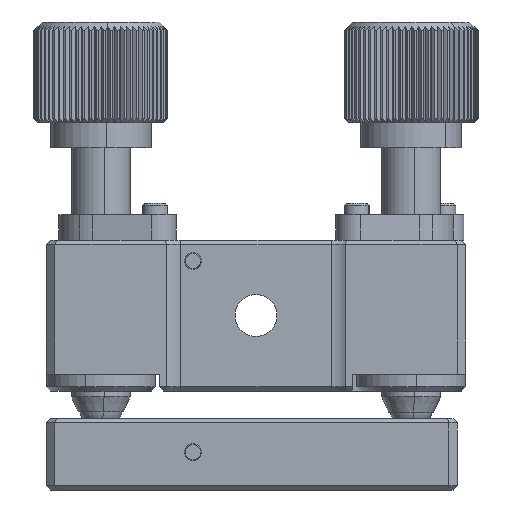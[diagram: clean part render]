
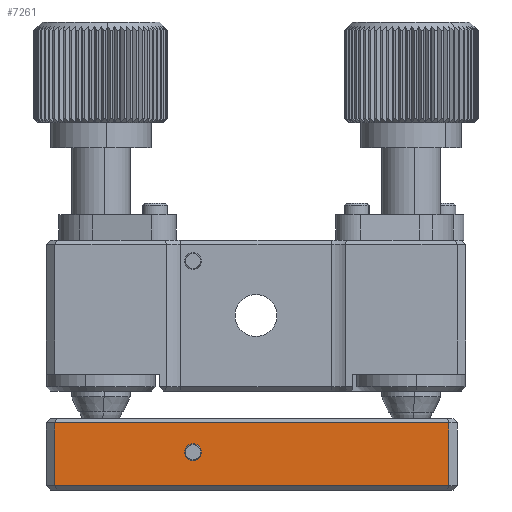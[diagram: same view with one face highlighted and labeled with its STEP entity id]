
A CAD part, left-side view. The second image highlights one B-rep face of the part: STEP entity #7261.
In plain terms, the highlighted planar face has unit normal (-1, 0, 0).
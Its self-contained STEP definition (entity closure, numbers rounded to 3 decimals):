
#1699 = CARTESIAN_POINT ( 'NONE',  ( -24., 5.383, 1.295 ) ) ;
#2219 = EDGE_CURVE ( 'NONE', #34113, #13018, #14185, .T. ) ;
#2660 = DIRECTION ( 'NONE',  ( -1., 0., 0. ) ) ;
#3025 = DIRECTION ( 'NONE',  ( 1., 0., 0. ) ) ;
#4028 = VERTEX_POINT ( 'NONE', #28346 ) ;
#4907 = CARTESIAN_POINT ( 'NONE',  ( -24., -25.117, 4.295 ) ) ;
#5583 = EDGE_LOOP ( 'NONE', ( #31156, #11211 ) ) ;
#7261 = ADVANCED_FACE ( 'NONE', ( #15672, #28830 ), #13208, .F. ) ;
#7636 = VERTEX_POINT ( 'NONE', #34006 ) ;
#8659 = EDGE_LOOP ( 'NONE', ( #19526, #28520, #23762, #25788 ) ) ;
#9363 = VECTOR ( 'NONE', #18109, 1000. ) ;
#9905 = AXIS2_PLACEMENT_3D ( 'NONE', #18895, #3025, #24144 ) ;
#10047 = EDGE_CURVE ( 'NONE', #13018, #4028, #30375, .T. ) ;
#10161 = CARTESIAN_POINT ( 'NONE',  ( -24., -25.117, -3.705 ) ) ;
#10431 = CARTESIAN_POINT ( 'NONE',  ( -24., 5.383, 0.295 ) ) ;
#11211 = ORIENTED_EDGE ( 'NONE', *, *, #17045, .F. ) ;
#11438 = AXIS2_PLACEMENT_3D ( 'NONE', #13309, #18641, #28955 ) ;
#13018 = VERTEX_POINT ( 'NONE', #26733 ) ;
#13035 = CARTESIAN_POINT ( 'NONE',  ( -24., 5.383, -0.705 ) ) ;
#13208 = PLANE ( 'NONE',  #9905 ) ;
#13309 = CARTESIAN_POINT ( 'NONE',  ( -24., 5.383, 0.295 ) ) ;
#13398 = DIRECTION ( 'NONE',  ( 0., 0., 1. ) ) ;
#14185 = LINE ( 'NONE', #24223, #26134 ) ;
#14274 = LINE ( 'NONE', #4907, #30274 ) ;
#15672 = FACE_BOUND ( 'NONE', #5583, .T. ) ;
#17045 = EDGE_CURVE ( 'NONE', #29134, #29404, #19175, .T. ) ;
#17163 = CIRCLE ( 'NONE', #20773, 1. ) ;
#17664 = DIRECTION ( 'NONE',  ( 0., 0., -1. ) ) ;
#18109 = DIRECTION ( 'NONE',  ( 0., 0., -1. ) ) ;
#18446 = CARTESIAN_POINT ( 'NONE',  ( -24., 21.883, 4.295 ) ) ;
#18641 = DIRECTION ( 'NONE',  ( -1., 0., 0. ) ) ;
#18895 = CARTESIAN_POINT ( 'NONE',  ( -24., -25.117, 4.295 ) ) ;
#19175 = CIRCLE ( 'NONE', #11438, 1. ) ;
#19526 = ORIENTED_EDGE ( 'NONE', *, *, #10047, .T. ) ;
#20769 = DIRECTION ( 'NONE',  ( 0., -1., 0. ) ) ;
#20773 = AXIS2_PLACEMENT_3D ( 'NONE', #10431, #2660, #13398 ) ;
#20842 = EDGE_CURVE ( 'NONE', #34113, #7636, #14274, .T. ) ;
#22399 = LINE ( 'NONE', #10161, #22797 ) ;
#22797 = VECTOR ( 'NONE', #20769, 1000. ) ;
#23762 = ORIENTED_EDGE ( 'NONE', *, *, #20842, .F. ) ;
#24144 = DIRECTION ( 'NONE',  ( 0., 0., -1. ) ) ;
#24223 = CARTESIAN_POINT ( 'NONE',  ( -24., 21.883, 3.795 ) ) ;
#25788 = ORIENTED_EDGE ( 'NONE', *, *, #2219, .T. ) ;
#26134 = VECTOR ( 'NONE', #32258, 1000. ) ;
#26733 = CARTESIAN_POINT ( 'NONE',  ( -24., 21.883, 3.795 ) ) ;
#27928 = EDGE_CURVE ( 'NONE', #29404, #29134, #17163, .T. ) ;
#28346 = CARTESIAN_POINT ( 'NONE',  ( -24., 21.883, -3.705 ) ) ;
#28520 = ORIENTED_EDGE ( 'NONE', *, *, #29088, .T. ) ;
#28830 = FACE_OUTER_BOUND ( 'NONE', #8659, .T. ) ;
#28955 = DIRECTION ( 'NONE',  ( 0., 0., 1. ) ) ;
#29088 = EDGE_CURVE ( 'NONE', #4028, #7636, #22399, .T. ) ;
#29134 = VERTEX_POINT ( 'NONE', #13035 ) ;
#29404 = VERTEX_POINT ( 'NONE', #1699 ) ;
#30274 = VECTOR ( 'NONE', #17664, 1000. ) ;
#30375 = LINE ( 'NONE', #18446, #9363 ) ;
#31156 = ORIENTED_EDGE ( 'NONE', *, *, #27928, .F. ) ;
#32258 = DIRECTION ( 'NONE',  ( 0., 1., 0. ) ) ;
#32544 = CARTESIAN_POINT ( 'NONE',  ( -24., -25.117, 3.795 ) ) ;
#34006 = CARTESIAN_POINT ( 'NONE',  ( -24., -25.117, -3.705 ) ) ;
#34113 = VERTEX_POINT ( 'NONE', #32544 ) ;
